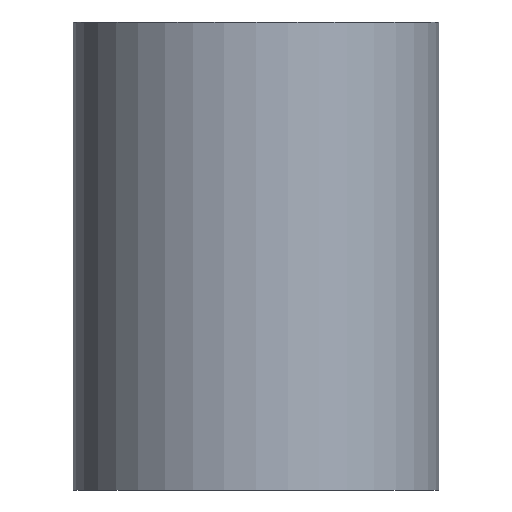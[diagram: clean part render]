
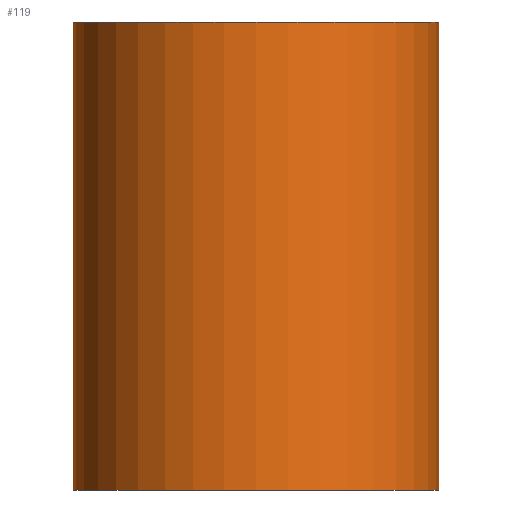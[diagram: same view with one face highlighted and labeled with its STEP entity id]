
A CAD part, front view. The second image highlights one B-rep face of the part: STEP entity #119.
In plain terms, the highlighted cylindrical face has radius 25 mm (diameter 50 mm), a partial arc.
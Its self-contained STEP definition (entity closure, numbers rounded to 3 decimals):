
#1 = LINE ( 'NONE', #4, #67 ) ;
#2 = CIRCLE ( 'NONE', #136, 25. ) ;
#4 = CARTESIAN_POINT ( 'NONE',  ( -25., 0., 64. ) ) ;
#5 = CYLINDRICAL_SURFACE ( 'NONE', #155, 25. ) ;
#11 = DIRECTION ( 'NONE',  ( -1., 0., 0. ) ) ;
#13 = EDGE_CURVE ( 'NONE', #39, #64, #122, .T. ) ;
#14 = FACE_OUTER_BOUND ( 'NONE', #137, .T. ) ;
#17 = DIRECTION ( 'NONE',  ( 0., 0., -1. ) ) ;
#21 = CARTESIAN_POINT ( 'NONE',  ( 0., 0., 64. ) ) ;
#26 = CARTESIAN_POINT ( 'NONE',  ( 25., 0., 64. ) ) ;
#28 = CARTESIAN_POINT ( 'NONE',  ( -25., 0., 64. ) ) ;
#39 = VERTEX_POINT ( 'NONE', #164 ) ;
#51 = VECTOR ( 'NONE', #121, 1000. ) ;
#59 = CARTESIAN_POINT ( 'NONE',  ( 0., 0., 64. ) ) ;
#64 = VERTEX_POINT ( 'NONE', #160 ) ;
#65 = DIRECTION ( 'NONE',  ( 0., 0., 1. ) ) ;
#67 = VECTOR ( 'NONE', #17, 1000. ) ;
#75 = DIRECTION ( 'NONE',  ( 1., 0., 0. ) ) ;
#80 = ORIENTED_EDGE ( 'NONE', *, *, #170, .F. ) ;
#98 = VERTEX_POINT ( 'NONE', #196 ) ;
#117 = LINE ( 'NONE', #26, #51 ) ;
#119 = ADVANCED_FACE ( 'NONE', ( #14 ), #5, .T. ) ;
#121 = DIRECTION ( 'NONE',  ( 0., 0., -1. ) ) ;
#122 = CIRCLE ( 'NONE', #140, 25. ) ;
#136 = AXIS2_PLACEMENT_3D ( 'NONE', #59, #65, #75 ) ;
#137 = EDGE_LOOP ( 'NONE', ( #80, #188, #142, #163 ) ) ;
#139 = CARTESIAN_POINT ( 'NONE',  ( 0., 0., 0. ) ) ;
#140 = AXIS2_PLACEMENT_3D ( 'NONE', #139, #211, #182 ) ;
#142 = ORIENTED_EDGE ( 'NONE', *, *, #179, .T. ) ;
#155 = AXIS2_PLACEMENT_3D ( 'NONE', #21, #204, #11 ) ;
#160 = CARTESIAN_POINT ( 'NONE',  ( 25., 0., 0. ) ) ;
#163 = ORIENTED_EDGE ( 'NONE', *, *, #13, .T. ) ;
#164 = CARTESIAN_POINT ( 'NONE',  ( -25., 0., 0. ) ) ;
#169 = EDGE_CURVE ( 'NONE', #193, #98, #2, .T. ) ;
#170 = EDGE_CURVE ( 'NONE', #98, #64, #117, .T. ) ;
#179 = EDGE_CURVE ( 'NONE', #193, #39, #1, .T. ) ;
#182 = DIRECTION ( 'NONE',  ( 1., 0., 0. ) ) ;
#188 = ORIENTED_EDGE ( 'NONE', *, *, #169, .F. ) ;
#193 = VERTEX_POINT ( 'NONE', #28 ) ;
#196 = CARTESIAN_POINT ( 'NONE',  ( 25., 0., 64. ) ) ;
#204 = DIRECTION ( 'NONE',  ( 0., 0., -1. ) ) ;
#211 = DIRECTION ( 'NONE',  ( 0., 0., 1. ) ) ;
